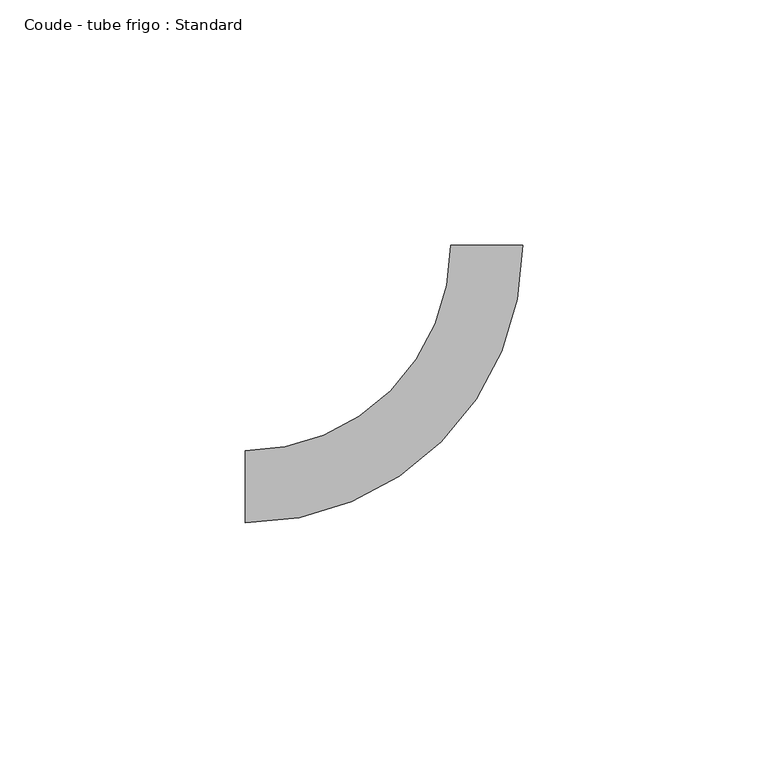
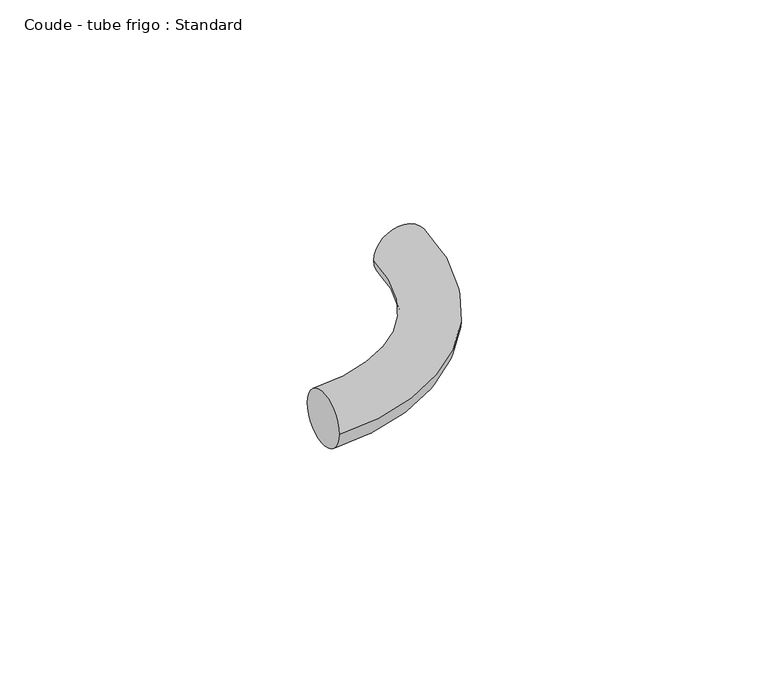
"""IFC4 building model written with IfcOpenShell, lengths in millimetres: pipe fitting geometry, Coude - tube frigo : Standard."""

from ifc_helpers import new_model, si_unit, point, frame, origin, place, context, project, spatial, circle_curve, ellipse_curve, trimmed, source, transform, mapped, element, save
from ifc_brep_helpers import plane_surface, revolved_surface, advanced_brep


def coude_tube_frigo_standard_bb69aab6(model_context):
    return source(origin(), model_context, "Body", "AdvancedBrep", [
        advanced_brep(
        [(-49.3, -7.35, 0.0), (-49.3, 7.35, 0.0), (7.3332565, 49.3024933, 0.0), (-7.3667426, 49.297501, 0.0)],
        [
            (0, 1, circle_curve(frame((-49.3, 0.0, 0.0), z_axis=(-1.0, 0.0, 0.0), x_axis=(0.0, 1.0, 0.0)), 7.35)),
            (1, 0, circle_curve(frame((-49.3, 0.0, 0.0), z_axis=(-1.0, 0.0, 0.0), x_axis=(0.0, 1.0, 0.0)), 7.35)),
            (2, 3, circle_curve(frame((-0.0167431, 49.2999972, 0.0), z_axis=(-0.0003396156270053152, 0.9999999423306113, 0.0), x_axis=(-0.9999999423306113, -0.0003396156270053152, 0.0)), 7.35)),
            (3, 2, circle_curve(frame((-0.0167431, 49.2999972, 0.0), z_axis=(-0.0003396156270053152, 0.9999999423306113, 0.0), x_axis=(-0.9999999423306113, -0.0003396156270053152, 0.0)), 7.35)),
            (3, 1, circle_curve(frame((-49.3, 49.2832598, 0.0), z_axis=(0.0, 0.0, -1.0), x_axis=(0.0, -1.0, 0.0)), 41.9332598)),
            (0, 2, circle_curve(frame((-49.3, 49.2832598, 0.0), z_axis=(0.0, 0.0, 1.0), x_axis=(0.0, -1.0, 0.0)), 56.6332598)),
        ],
        [
            plane_surface(frame((-49.3, 0.0, 0.0), z_axis=(-1.0, 0.0, 0.0), x_axis=(0.0, 0.0, 1.0))),
            plane_surface(frame((-0.0167431, 49.2999972, 0.0), z_axis=(-0.0003396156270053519, 0.9999999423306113, 0.0), x_axis=(0.0, 0.0, 1.0))),
            revolved_surface(trimmed(ellipse_curve(frame((-49.3, 0.0, 0.0), z_axis=(-1.0, 0.0, 0.0), x_axis=(0.0, 1.0, 0.0)), 7.35, 7.35), [point((-49.3, -7.35, 0.0))], [point((-49.3, 7.35, 0.0))], True, "CARTESIAN"), (-49.3, 49.2832598, 0.0), (0.0, 0.0, 1.0)),
            revolved_surface(trimmed(ellipse_curve(frame((-49.3, 0.0, 0.0), z_axis=(-1.0, 0.0, 0.0), x_axis=(0.0, 1.0, 0.0)), 7.35, 7.35), [point((-49.3, 7.35, 0.0))], [point((-49.3, -7.35, 0.0))], True, "CARTESIAN"), (-49.3, 49.2832598, 0.0), (0.0, 0.0, 1.0)),
        ],
        [
            (0, [[1, 2]]),
            (1, [[3, 4]]),
            (2, [[5, -1, 6, -4]]),
            (3, [[-6, -2, -5, -3]]),
        ],
    ),
    ])


if __name__ == "__main__":
    model = new_model("IFC4")
    model_context = context("Model", 3, world=origin())
    ifc_project = project(units=[si_unit("LENGTHUNIT", "METRE", prefix="MILLI")], contexts=[model_context])
    site = spatial("IfcSite", under=ifc_project)
    building = spatial("IfcBuilding", under=site)
    placement = place(None, origin())
    coude_tube_frigo_standard_shape = coude_tube_frigo_standard_bb69aab6(model_context)
    element("IfcPipeFitting", 1, ObjectType="Coude - tube frigo : Standard", at=placement, inside=building, context=model_context, shape_type="MappedRepresentation", body=[
        mapped(coude_tube_frigo_standard_shape, transform((0.0, 0.0, 0.0), x_axis=(1.0, 0.0, 0.0), y_axis=(0.0, 1.0, 0.0), z_axis=(0.0, 0.0, 1.0))),
    ])
    save(model, "model.ifc")
